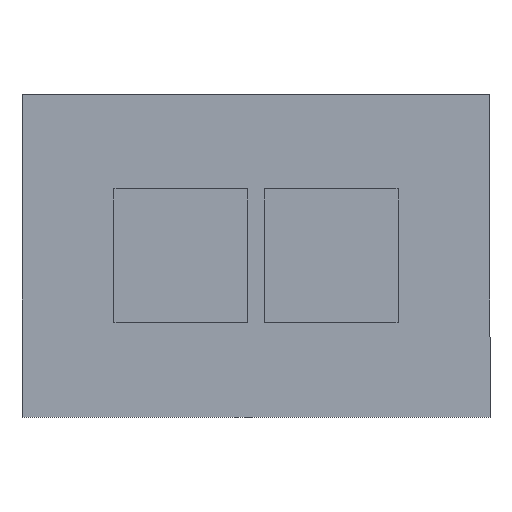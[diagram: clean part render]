
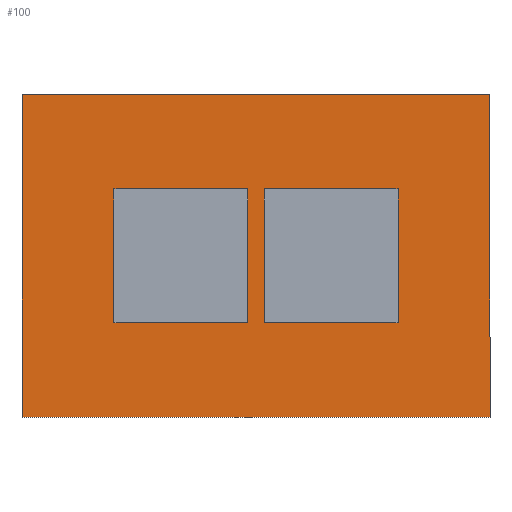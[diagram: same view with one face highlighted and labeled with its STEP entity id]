
A CAD part, top view. The second image highlights one B-rep face of the part: STEP entity #100.
In plain terms, the highlighted planar face has unit normal (0, 0, 1).
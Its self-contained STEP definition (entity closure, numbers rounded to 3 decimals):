
#3 = EDGE_CURVE ( 'NONE', #440, #1134, #195, .T. ) ;
#7 = AXIS2_PLACEMENT_3D ( 'NONE', #1305, #148, #1182 ) ;
#43 = LINE ( 'NONE', #971, #157 ) ;
#59 = DIRECTION ( 'NONE',  ( 0., 1., 0. ) ) ;
#65 = CARTESIAN_POINT ( 'NONE',  ( -0.88, 0.415, 0. ) ) ;
#71 = DIRECTION ( 'NONE',  ( 0., 1., 0. ) ) ;
#77 = CARTESIAN_POINT ( 'NONE',  ( -1.45, 1., 0. ) ) ;
#93 = VECTOR ( 'NONE', #59, 1000. ) ;
#100 = ADVANCED_FACE ( 'NONE', ( #1177, #1401, #1078 ), #261, .T. ) ;
#105 = CARTESIAN_POINT ( 'NONE',  ( -1.45, 1., 0. ) ) ;
#133 = CARTESIAN_POINT ( 'NONE',  ( 0.05, -0.415, 0. ) ) ;
#139 = VERTEX_POINT ( 'NONE', #1293 ) ;
#148 = DIRECTION ( 'NONE',  ( 0., 0., 1. ) ) ;
#150 = LINE ( 'NONE', #605, #273 ) ;
#157 = VECTOR ( 'NONE', #1185, 1000. ) ;
#182 = CARTESIAN_POINT ( 'NONE',  ( 0., 0.415, 0. ) ) ;
#194 = DIRECTION ( 'NONE',  ( 0., -1., 0. ) ) ;
#195 = LINE ( 'NONE', #219, #1055 ) ;
#202 = DIRECTION ( 'NONE',  ( -1., 0., 0. ) ) ;
#204 = LINE ( 'NONE', #105, #1076 ) ;
#219 = CARTESIAN_POINT ( 'NONE',  ( 1.45, 1., 0. ) ) ;
#259 = CARTESIAN_POINT ( 'NONE',  ( 0.88, 0., 0. ) ) ;
#260 = CARTESIAN_POINT ( 'NONE',  ( 0.88, 0.415, 0. ) ) ;
#261 = PLANE ( 'NONE',  #7 ) ;
#273 = VECTOR ( 'NONE', #386, 1000. ) ;
#277 = VECTOR ( 'NONE', #1361, 1000. ) ;
#278 = ORIENTED_EDGE ( 'NONE', *, *, #395, .F. ) ;
#279 = CARTESIAN_POINT ( 'NONE',  ( -0.88, -0.415, 0. ) ) ;
#293 = CARTESIAN_POINT ( 'NONE',  ( -0.05, 0.415, 0. ) ) ;
#298 = DIRECTION ( 'NONE',  ( 0., -1., 0. ) ) ;
#316 = VECTOR ( 'NONE', #1477, 1000. ) ;
#336 = LINE ( 'NONE', #806, #316 ) ;
#353 = EDGE_CURVE ( 'NONE', #900, #916, #869, .T. ) ;
#367 = VECTOR ( 'NONE', #194, 1000. ) ;
#382 = ORIENTED_EDGE ( 'NONE', *, *, #3, .T. ) ;
#386 = DIRECTION ( 'NONE',  ( 1., 0., 0. ) ) ;
#395 = EDGE_CURVE ( 'NONE', #139, #527, #1210, .T. ) ;
#403 = EDGE_CURVE ( 'NONE', #1134, #1437, #43, .T. ) ;
#440 = VERTEX_POINT ( 'NONE', #845 ) ;
#490 = VECTOR ( 'NONE', #71, 1000. ) ;
#498 = EDGE_CURVE ( 'NONE', #527, #1110, #541, .T. ) ;
#519 = ORIENTED_EDGE ( 'NONE', *, *, #1462, .F. ) ;
#527 = VERTEX_POINT ( 'NONE', #293 ) ;
#530 = CARTESIAN_POINT ( 'NONE',  ( 1.45, 1., 0. ) ) ;
#541 = LINE ( 'NONE', #182, #1403 ) ;
#548 = EDGE_CURVE ( 'NONE', #713, #440, #336, .T. ) ;
#552 = LINE ( 'NONE', #1036, #277 ) ;
#582 = VERTEX_POINT ( 'NONE', #133 ) ;
#584 = CARTESIAN_POINT ( 'NONE',  ( 0.88, -0.415, 0. ) ) ;
#605 = CARTESIAN_POINT ( 'NONE',  ( 0., -0.415, 0. ) ) ;
#628 = ORIENTED_EDGE ( 'NONE', *, *, #403, .T. ) ;
#634 = EDGE_LOOP ( 'NONE', ( #382, #628, #1249, #1184 ) ) ;
#684 = CARTESIAN_POINT ( 'NONE',  ( 0.05, 0.415, 0. ) ) ;
#713 = VERTEX_POINT ( 'NONE', #1432 ) ;
#723 = EDGE_CURVE ( 'NONE', #1062, #139, #877, .T. ) ;
#747 = VERTEX_POINT ( 'NONE', #684 ) ;
#773 = EDGE_LOOP ( 'NONE', ( #519, #1097, #278, #876 ) ) ;
#780 = CARTESIAN_POINT ( 'NONE',  ( -0.88, 0., 0. ) ) ;
#791 = EDGE_CURVE ( 'NONE', #916, #747, #552, .T. ) ;
#806 = CARTESIAN_POINT ( 'NONE',  ( -1.45, -1., 0. ) ) ;
#811 = VECTOR ( 'NONE', #1131, 1000. ) ;
#845 = CARTESIAN_POINT ( 'NONE',  ( 1.45, -1., 0. ) ) ;
#869 = LINE ( 'NONE', #259, #93 ) ;
#874 = ORIENTED_EDGE ( 'NONE', *, *, #1448, .F. ) ;
#876 = ORIENTED_EDGE ( 'NONE', *, *, #723, .F. ) ;
#877 = LINE ( 'NONE', #1265, #811 ) ;
#883 = DIRECTION ( 'NONE',  ( 0., -1., 0. ) ) ;
#897 = CARTESIAN_POINT ( 'NONE',  ( 0.05, 0., 0. ) ) ;
#900 = VERTEX_POINT ( 'NONE', #584 ) ;
#916 = VERTEX_POINT ( 'NONE', #260 ) ;
#961 = VECTOR ( 'NONE', #298, 1000. ) ;
#971 = CARTESIAN_POINT ( 'NONE',  ( -1.45, 1., 0. ) ) ;
#1036 = CARTESIAN_POINT ( 'NONE',  ( 0., 0.415, 0. ) ) ;
#1042 = ORIENTED_EDGE ( 'NONE', *, *, #1374, .F. ) ;
#1055 = VECTOR ( 'NONE', #1328, 1000. ) ;
#1062 = VERTEX_POINT ( 'NONE', #279 ) ;
#1068 = CARTESIAN_POINT ( 'NONE',  ( -0.05, 0., 0. ) ) ;
#1076 = VECTOR ( 'NONE', #883, 1000. ) ;
#1078 = FACE_OUTER_BOUND ( 'NONE', #634, .T. ) ;
#1097 = ORIENTED_EDGE ( 'NONE', *, *, #498, .F. ) ;
#1110 = VERTEX_POINT ( 'NONE', #65 ) ;
#1131 = DIRECTION ( 'NONE',  ( 1., 0., 0. ) ) ;
#1134 = VERTEX_POINT ( 'NONE', #530 ) ;
#1144 = EDGE_CURVE ( 'NONE', #1437, #713, #204, .T. ) ;
#1177 = FACE_BOUND ( 'NONE', #1376, .T. ) ;
#1182 = DIRECTION ( 'NONE',  ( 1., 0., 0. ) ) ;
#1184 = ORIENTED_EDGE ( 'NONE', *, *, #548, .T. ) ;
#1185 = DIRECTION ( 'NONE',  ( -1., 0., 0. ) ) ;
#1210 = LINE ( 'NONE', #1068, #490 ) ;
#1236 = ORIENTED_EDGE ( 'NONE', *, *, #791, .F. ) ;
#1249 = ORIENTED_EDGE ( 'NONE', *, *, #1144, .T. ) ;
#1265 = CARTESIAN_POINT ( 'NONE',  ( 0., -0.415, 0. ) ) ;
#1293 = CARTESIAN_POINT ( 'NONE',  ( -0.05, -0.415, 0. ) ) ;
#1305 = CARTESIAN_POINT ( 'NONE',  ( 0., 0., 0. ) ) ;
#1328 = DIRECTION ( 'NONE',  ( 0., 1., 0. ) ) ;
#1338 = LINE ( 'NONE', #780, #367 ) ;
#1345 = LINE ( 'NONE', #897, #961 ) ;
#1361 = DIRECTION ( 'NONE',  ( -1., 0., 0. ) ) ;
#1374 = EDGE_CURVE ( 'NONE', #582, #900, #150, .T. ) ;
#1376 = EDGE_LOOP ( 'NONE', ( #874, #1236, #1464, #1042 ) ) ;
#1401 = FACE_BOUND ( 'NONE', #773, .T. ) ;
#1403 = VECTOR ( 'NONE', #202, 1000. ) ;
#1432 = CARTESIAN_POINT ( 'NONE',  ( -1.45, -1., 0. ) ) ;
#1437 = VERTEX_POINT ( 'NONE', #77 ) ;
#1448 = EDGE_CURVE ( 'NONE', #747, #582, #1345, .T. ) ;
#1462 = EDGE_CURVE ( 'NONE', #1110, #1062, #1338, .T. ) ;
#1464 = ORIENTED_EDGE ( 'NONE', *, *, #353, .F. ) ;
#1477 = DIRECTION ( 'NONE',  ( 1., 0., 0. ) ) ;
